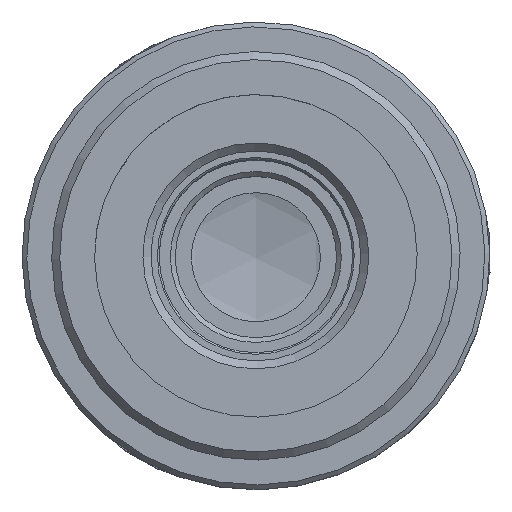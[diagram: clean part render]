
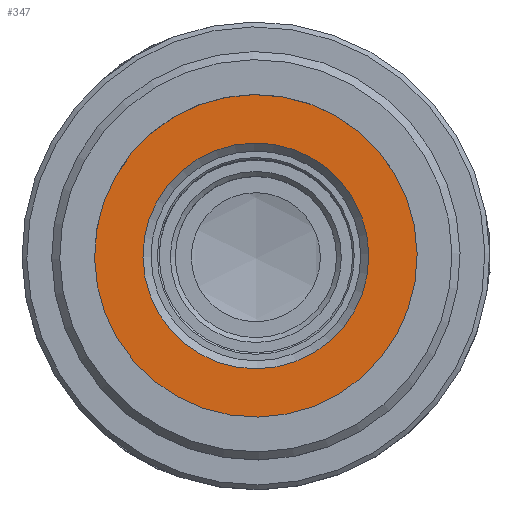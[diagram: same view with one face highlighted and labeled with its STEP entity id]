
A CAD part, top view. The second image highlights one B-rep face of the part: STEP entity #347.
In plain terms, the highlighted planar face has unit normal (0, 0, 1).
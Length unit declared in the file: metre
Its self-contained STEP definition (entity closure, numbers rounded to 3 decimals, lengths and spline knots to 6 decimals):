
#347=ADVANCED_FACE('NONE',(#782,#783),#784,.F.);
#782=FACE_BOUND('',#1356,.T.);
#783=FACE_OUTER_BOUND('',#1357,.T.);
#784=PLANE('',#1358);
#1356=EDGE_LOOP('',(#2053));
#1357=EDGE_LOOP('',(#2054));
#1358=AXIS2_PLACEMENT_3D('',#2055,#2056,#2057);
#2053=ORIENTED_EDGE('',*,*,#2591,.T.);
#2054=ORIENTED_EDGE('',*,*,#2593,.F.);
#2055=CARTESIAN_POINT('',(-0.0214,0.00735,0.040999));
#2056=DIRECTION('',(0.,0.,-1.0));
#2057=DIRECTION('',(-1.0,0.0,0.));
#2591=EDGE_CURVE('NONE',#3042,#3042,#3043,.T.);
#2593=EDGE_CURVE('NONE',#3045,#3045,#3046,.T.);
#3042=VERTEX_POINT('',#3876);
#3043=CIRCLE('',#3877,0.007);
#3045=VERTEX_POINT('',#3879);
#3046=CIRCLE('',#3880,0.01);
#3876=CARTESIAN_POINT('',(-0.032389,0.002037,0.040999));
#3877=AXIS2_PLACEMENT_3D('',#4325,#4326,#4327);
#3879=CARTESIAN_POINT('',(-0.035008,0.003501,0.040999));
#3880=AXIS2_PLACEMENT_3D('',#4328,#4329,#4330);
#4325=CARTESIAN_POINT('',(-0.02628,-0.001379,0.040999));
#4326=DIRECTION('',(0.,0.,-1.0));
#4327=DIRECTION('',(-0.873,0.488,0.));
#4328=CARTESIAN_POINT('',(-0.02628,-0.001379,0.040999));
#4329=DIRECTION('',(0.,0.,-1.0));
#4330=DIRECTION('',(-0.873,0.488,0.));
